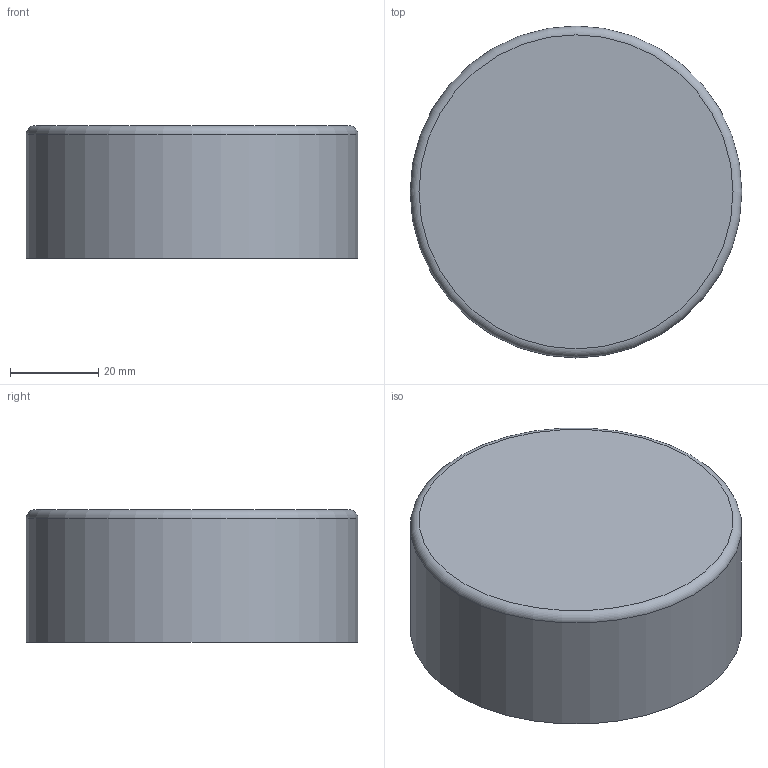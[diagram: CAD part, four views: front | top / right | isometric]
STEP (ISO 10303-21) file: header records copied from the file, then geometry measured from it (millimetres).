
FILE_DESCRIPTION(/* description */ (''),/* implementation_level */ '2;1');
FILE_NAME(/* name */ 'C:\Geberit-Teile\Export\Enddeckel\stp\307005.stp',/* time_stamp */ '2019-03-25T17:31:10+01:00',/* author */ ('seihe2'),/* organization */ (''),/* preprocessor_version */ 'ST-DEVELOPER v17',/* originating_system */ 'Autodesk Inventor 2018',/* authorisation */ '');
FILE_SCHEMA (('AUTOMOTIVE_DESIGN { 1 0 10303 214 3 1 1 }'));
Length unit declared in the file: millimetre
Products named in the file (1): Enddeckel PE-S2 d75 L3
Bounding box: 75 x 75 x 30 mm (x, y, z)
Volume: 37022.9 mm3; surface area: 21323.5 mm2
Topology: 1 solids, 1 shells, 6 faces, 13 edges, 10 vertices
Faces by surface type: plane 3, cylinder 2, torus 1
Full cylindrical faces by diameter (mm): 67.8 x1, 75 x1
Entity records: 232 total; most frequent: DIRECTION 38, CARTESIAN_POINT 30, ORIENTED_EDGE 26, AXIS2_PLACEMENT_3D 18, EDGE_CURVE 13, CIRCLE 11, VERTEX_POINT 10, EDGE_LOOP 7
